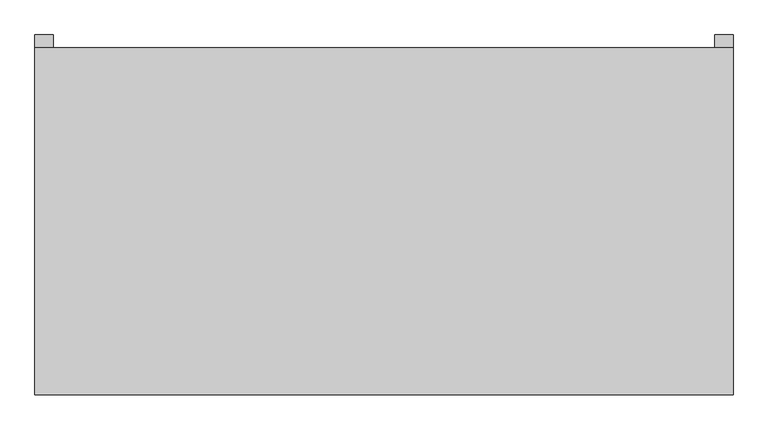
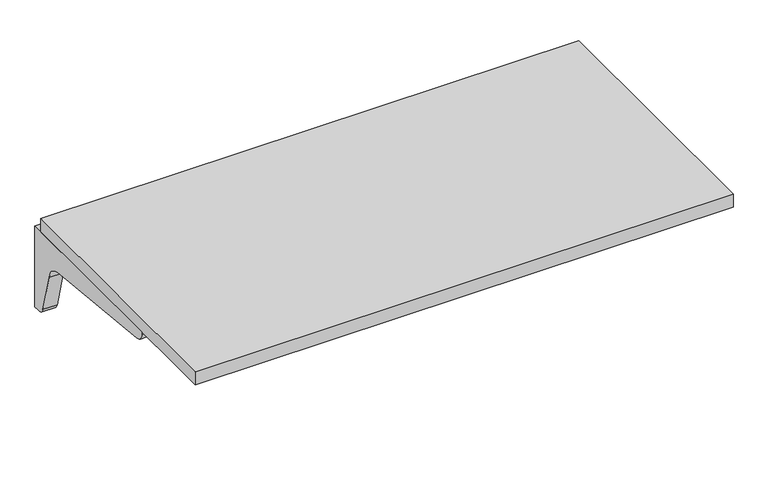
"""IFC4 building model written with IfcOpenShell, lengths in millimetres: furniture geometry."""

from ifc_helpers import new_model, si_unit, point, frame, frame_2d, origin, place, context, project, spatial, polyline, circle_curve, trimmed, segment, composite_curve, outline, extrude, source, transform, mapped, element, save


def furniture_ed9c8b2b(model_context):
    return source(origin(), model_context, "Body", "SweptSolid", [
        extrude(outline(composite_curve([segment(polyline([(314.325, 603.25), (314.325, 409.575), (301.625, 409.575)]), True, "CONTINUOUS"), segment(trimmed(circle_curve(frame_2d((299.3081081, 426.7371622)), 17.3178462), [point((301.625, 409.575))], [point((282.575, 422.275))], False, "CARTESIAN"), True, "CONTINUOUS"), segment(polyline([(282.575, 422.275), (257.175, 514.35)]), True, "CONTINUOUS"), segment(trimmed(circle_curve(frame_2d((221.8170455, 510.7420455)), 35.5415572), [point((257.175, 514.35))], [point((225.425, 546.1))], True, "CARTESIAN"), True, "CONTINUOUS"), segment(polyline([(225.425, 546.1), (-85.725, 577.85)]), True, "CONTINUOUS"), segment(trimmed(circle_curve(frame_2d((-85.725, 596.9)), 19.05), [point((-85.725, 577.85))], [point((-104.775, 596.9))], False, "CARTESIAN"), True, "CONTINUOUS"), segment(polyline([(-104.775, 596.9), (-104.775, 603.25), (314.325, 603.25)]), True, "CONTINUOUS")], self_intersect=False)), frame((577.85, 0.0, 0.0), z_axis=(1.0, 0.0, 0.0), x_axis=(0.0, 1.0, 0.0)), (0.0, 0.0, 1.0), 31.75),
        extrude(outline(composite_curve([segment(polyline([(314.325, 603.25), (314.325, 409.575), (301.625, 409.575)]), True, "CONTINUOUS"), segment(trimmed(circle_curve(frame_2d((299.3081081, 426.7371622)), 17.3178462), [point((301.625, 409.575))], [point((282.575, 422.275))], False, "CARTESIAN"), True, "CONTINUOUS"), segment(polyline([(282.575, 422.275), (257.175, 514.35)]), True, "CONTINUOUS"), segment(trimmed(circle_curve(frame_2d((221.8170455, 510.7420455)), 35.5415572), [point((257.175, 514.35))], [point((225.425, 546.1))], True, "CARTESIAN"), True, "CONTINUOUS"), segment(polyline([(225.425, 546.1), (-85.725, 577.85)]), True, "CONTINUOUS"), segment(trimmed(circle_curve(frame_2d((-85.725, 596.9)), 19.05), [point((-85.725, 577.85))], [point((-104.775, 596.9))], False, "CARTESIAN"), True, "CONTINUOUS"), segment(polyline([(-104.775, 596.9), (-104.775, 603.25), (314.325, 603.25)]), True, "CONTINUOUS")], self_intersect=False)), frame((-609.6, 0.0, 0.0), z_axis=(1.0, 0.0, 0.0), x_axis=(0.0, 1.0, 0.0)), (0.0, 0.0, 1.0), 31.75),
        extrude(outline(polyline([(-609.6, 292.1), (609.6, 292.1), (609.6, -314.325), (-609.6, -314.325), (-609.6, 292.1)])), frame((0.0, 0.0, 603.25), z_axis=(0.0, 0.0, 1.0), x_axis=(1.0, 0.0, 0.0)), (0.0, 0.0, 1.0), 31.75),
    ])


if __name__ == "__main__":
    model = new_model("IFC4")
    model_context = context("Model", 3, world=origin())
    ifc_project = project(units=[si_unit("LENGTHUNIT", "METRE", prefix="MILLI")], contexts=[model_context])
    site = spatial("IfcSite", under=ifc_project)
    building = spatial("IfcBuilding", under=site)
    placement = place(None, origin())
    furniture_shape = furniture_ed9c8b2b(model_context)
    element("IfcFurniture", 1, ObjectType="HermanMiller_ActionOffice_A2310_Sq-EdgeRectangularWorkSurface : 24\"D x 48\"W", at=placement, inside=building, context=model_context, shape_type="MappedRepresentation", body=[
        mapped(furniture_shape, transform((0.0, 0.0, 0.0), x_axis=(1.0, 0.0, 0.0), y_axis=(0.0, 1.0, 0.0), z_axis=(0.0, 0.0, 1.0))),
    ])
    save(model, "model.ifc")
